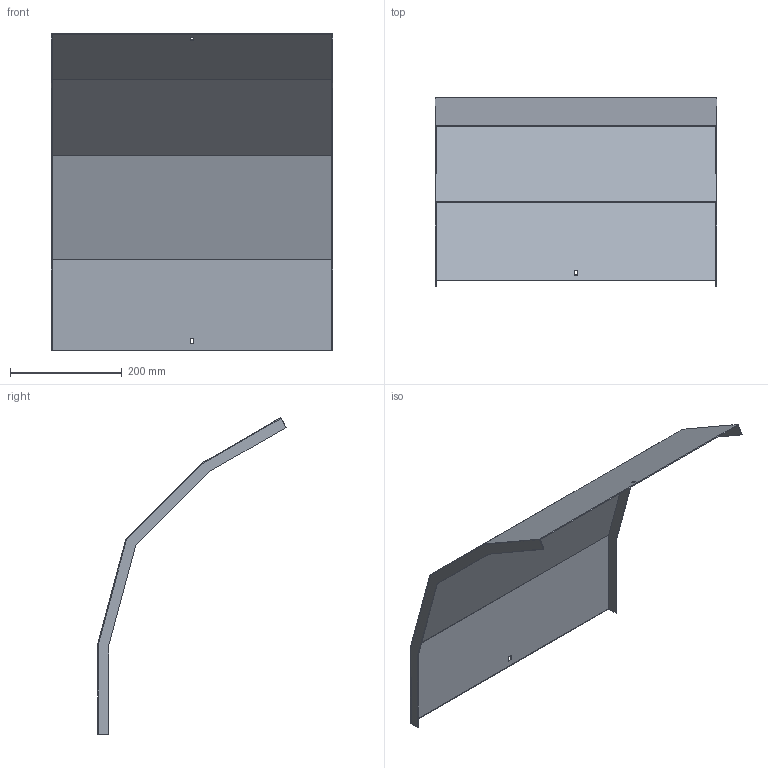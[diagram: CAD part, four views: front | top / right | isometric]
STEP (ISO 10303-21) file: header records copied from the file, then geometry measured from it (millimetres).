
FILE_DESCRIPTION (( 'STEP AP214' ), '1' );
FILE_NAME ('A2_41N3C500.step', '2025-02-21T10:39:22', ( '' ), ( '' ), 'SwSTEP 2.0', 'SolidWorks 2023', '' );
FILE_SCHEMA (( 'AUTOMOTIVE_DESIGN' ));
Length unit declared in the file: millimetre
Products named in the file (1): A2_41N3C500
Bounding box: 503 x 337.26 x 566.83 mm (x, y, z)
Volume: 574702 mm3; surface area: 770054.7 mm2
Topology: 1 solids, 1 shells, 30 faces, 84 edges, 56 vertices
Faces by surface type: plane 30
Entity records: 979 total; most frequent: CARTESIAN_POINT 171, ORIENTED_EDGE 168, DIRECTION 146, LINE 84, EDGE_CURVE 84, VECTOR 84, VERTEX_POINT 56, EDGE_LOOP 34
